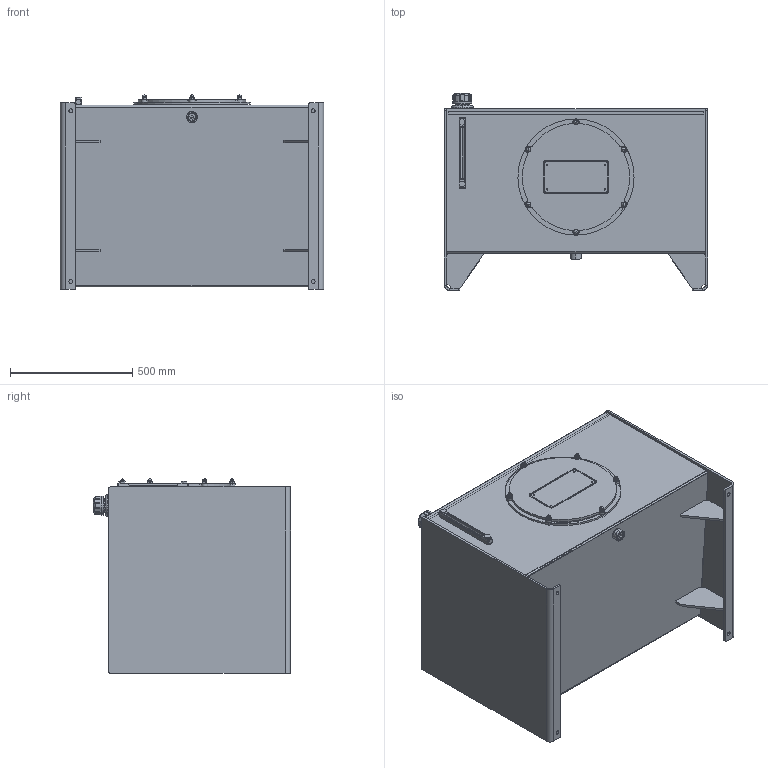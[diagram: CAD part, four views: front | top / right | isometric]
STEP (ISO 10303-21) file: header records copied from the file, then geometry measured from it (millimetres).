
FILE_DESCRIPTION (( 'STEP AP214' ), '1' );
FILE_NAME ('RDIN100-AFA.STEP', '2021-08-20T19:37:01', ( 'Owner' ), ( '' ), 'SwSTEP 2.0', 'SolidWorks 2020', '' );
FILE_SCHEMA (( 'AUTOMOTIVE_DESIGN' ));
Length unit declared in the file: inch
Products named in the file (24): PLLG-10T; FB-S-W; RDIN100-AFA; NAC100-15; RDIN100-AFA-TOP; BHS8100-15350; RDIN100-AFA-LEND; RDIN100-AFA-GUSSET1; REC-M475K; FB-F008_FB-F-008; RDIN100-AFA-BODY_DIN; RHJ-PLUG-016; REC-M475C; FB-H008W; RHJ-PLUG-200; FB-C-H_FB-H008W; NHP50016-20H__.50-20_NUT_95505A615; Weld Riser; 8162-010-2_4534K46; WFZM010; QSTSBUR00080008; RDIN100-AFA-GUSSET2; S16; RDIN100-AFA-REND
Assembly tree (42 placements, depth 3):
  RDIN100-AFA
    RDIN100-AFA-BODY_DIN
    RDIN100-AFA-LEND
    RDIN100-AFA-REND
    RDIN100-AFA-TOP
    Weld Riser
    FB-H008W
      FB-F008_FB-F-008
      FB-S-W
      FB-C-H_FB-H008W
    BHS8100-15350  x6
    PLLG-10T
    REC-M475K
      REC-M475C
      NAC100-15  x6
      WFZM010  x6
    S16
    8162-010-2_4534K46
    RDIN100-AFA-GUSSET1  x2
    RDIN100-AFA-GUSSET2  x2
    QSTSBUR00080008  x4
    NHP50016-20H__.50-20_NUT_95505A615  x2
  RHJ-PLUG-016
  RHJ-PLUG-200
Bounding box: 1076.31 x 806.07 x 795.44 mm (x, y, z)
Volume: 27519267.5 mm3; surface area: 8661894.4 mm2
Topology: 43 solids, 43 shells, 1320 faces, 3079 edges, 1831 vertices
Faces by surface type: plane 435, cylinder 417, cone 226, bspline 100, torus 94, sphere 48
Entity records: 36188 total; most frequent: CARTESIAN_POINT 9990, DIRECTION 5218, ORIENTED_EDGE 4806, EDGE_CURVE 2403, AXIS2_PLACEMENT_3D 2121, VERTEX_POINT 1445, EDGE_LOOP 1156, CIRCLE 1143
